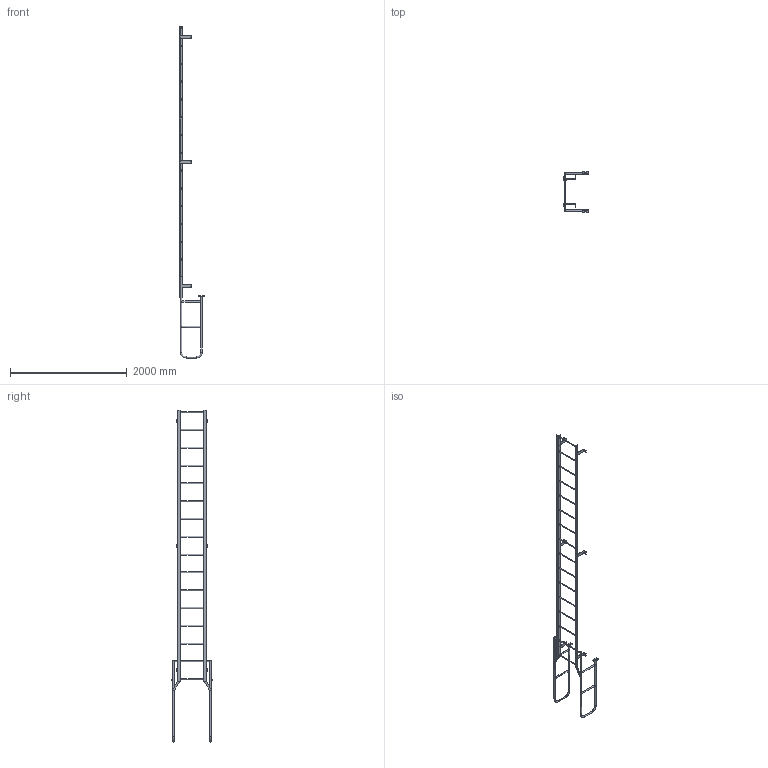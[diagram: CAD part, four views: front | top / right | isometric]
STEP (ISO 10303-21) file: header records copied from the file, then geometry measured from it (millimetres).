
FILE_DESCRIPTION(/* description */ (''),/* implementation_level */ '2;1');
FILE_NAME(/* name */ 'P:\MIKEL & KAREN\3570234 F16W SIMPLIFIED PART.stp',/* time_stamp */ '2018-07-02T15:49:40-04:00',/* author */ ('stephanie'),/* organization */ (''),/* preprocessor_version */ 'ST-DEVELOPER v16.1',/* originating_system */ 'Autodesk Inventor 2016',/* authorisation */ '');
FILE_SCHEMA (('AUTOMOTIVE_DESIGN { 1 0 10303 214 3 1 1 }'));
Length unit declared in the file: centimetre
Products named in the file (1): 3570234 F16W SIMPLIFIED PART
Bounding box: 425.58 x 685.8 x 5686.43 mm (x, y, z)
Volume: 9002424 mm3; surface area: 3470625.3 mm2
Topology: 24 solids, 24 shells, 302 faces, 768 edges, 508 vertices
Faces by surface type: plane 155, cylinder 139, torus 8
Full cylindrical faces by diameter (mm): 10.319 x4, 14.287 x6, 19.05 x16, 22.098 x10, 22.225 x32, 25.4 x10
Entity records: 9253 total; most frequent: CARTESIAN_POINT 1807, DIRECTION 1522, ORIENTED_EDGE 1288, EDGE_CURVE 638, AXIS2_PLACEMENT_3D 597, EDGE_LOOP 480, VERTEX_POINT 466, LINE 328
